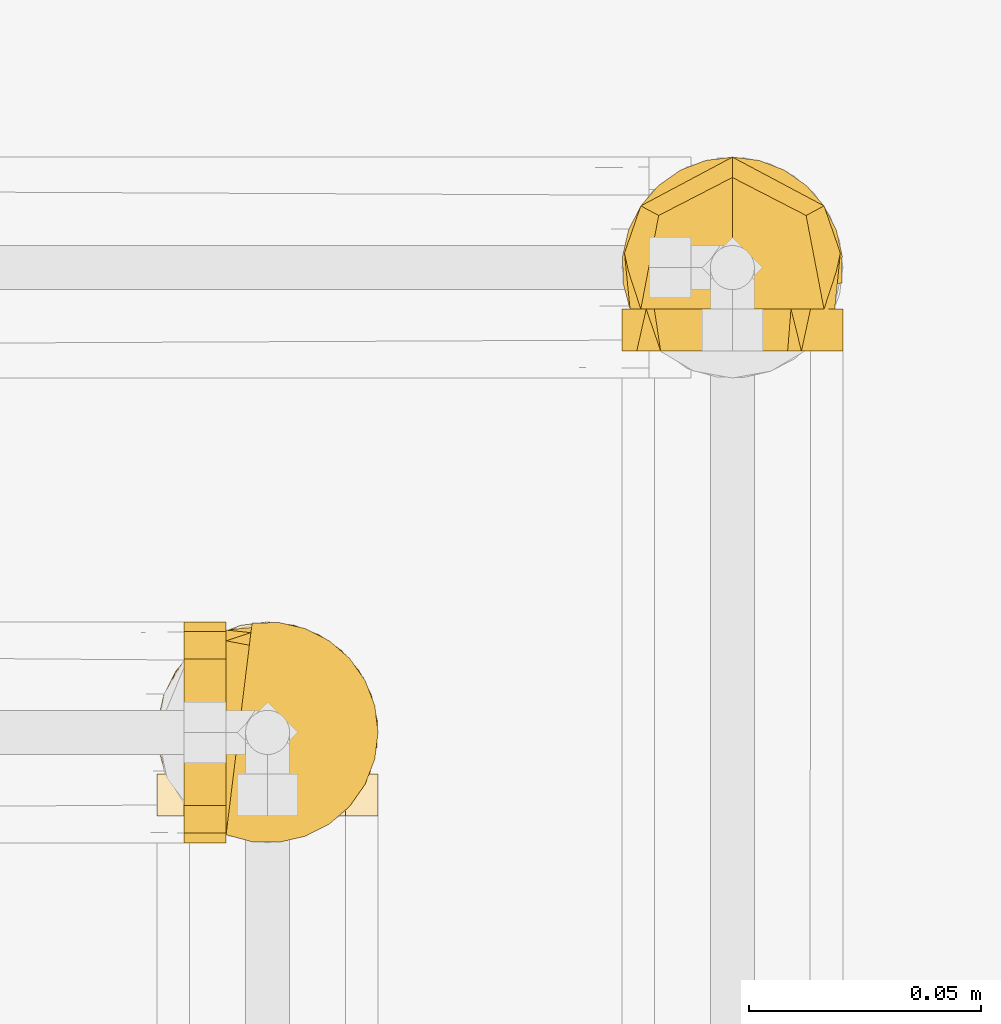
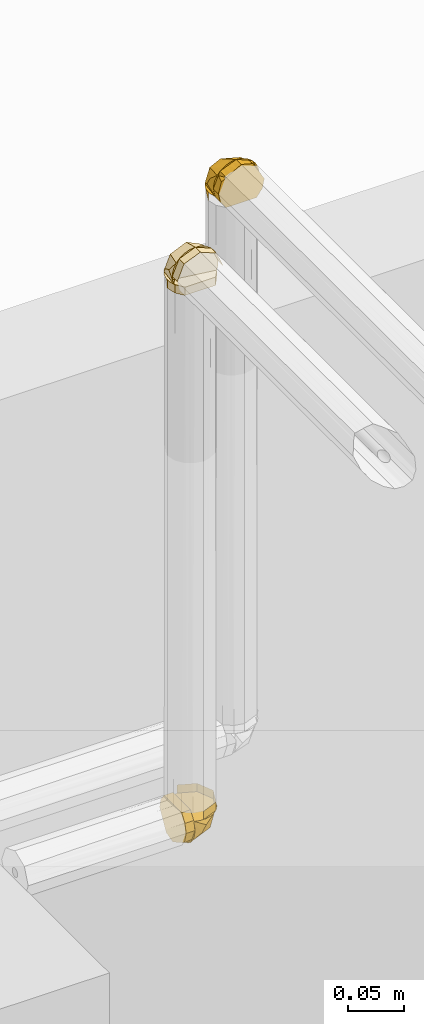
# One storey, part 313 of 652: 3 coverings.
"""IFC2X3 building model written with IfcOpenShell, lengths in millimetres."""

from ifc_helpers import new_model, entity, si_unit, converted_unit, direction, frame, origin, place, context, subcontext, project, spatial, face_set, surface_model, material, type_object, element, save


model = new_model("IFC2X3")

# Units and contexts
model_context = context("Model", 3, precision=0.01, world=frame((0.0, 0.0, 308426.39999999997)), true_north=direction((6.123233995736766e-17, 1.0)))
plan_context = context("Plan", 3, precision=0.01, world=frame((0.0, 0.0, 308426.39999999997)), true_north=direction((6.123233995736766e-17, 1.0)))
body_context = subcontext(model_context, "Body", "Model", "MODEL_VIEW")
ifc_project = project(units=[si_unit("LENGTHUNIT", "METRE", prefix="MILLI"), si_unit("AREAUNIT", "SQUARE_METRE"), si_unit("VOLUMEUNIT", "CUBIC_METRE"), converted_unit("PLANEANGLEUNIT", "DEGREE", entity("IfcPlaneAngleMeasure", 0.017453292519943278), si_unit("PLANEANGLEUNIT", "RADIAN"), dimensions=[0, 0, 0, 0, 0, 0, 0])], contexts=[model_context, plan_context])

# Site, building, storey
site_placement = place(None, origin())
site = spatial("IfcSite", under=ifc_project, at=site_placement, Name="Default", CompositionType="ELEMENT")
building_placement = place(site_placement, origin())
building = spatial("IfcBuilding", under=site, at=building_placement, CompositionType="ELEMENT")
storey_placement = place(building_placement, frame((0.0, 0.0, 1730.6999999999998)))
storey = spatial("IfcBuildingStorey", under=building, at=storey_placement, Name="EG_Produktion_FFB", CompositionType="ELEMENT", Elevation=1730.6999999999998)

# Coverings
ifc_material = material(Name="Dämmung - Armaflex-Schlauch")
covering_type = type_object("IfcCoveringType", Name="Rohrdämmung außen:Armaflex-Schlauch", PredefinedType="INSULATION")
covering_1_placement = place(storey_placement, frame((24840.430805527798, 63025.89816965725, 3325.3577722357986)))
element("IfcCovering", 1, at=covering_1_placement, inside=storey, type_object=covering_type, material=ifc_material, Name="Rohrdämmung außen:Armaflex-Schlauch", ObjectType="Rohrdämmung außen:Armaflex-Schlauch", PredefinedType="INSULATION", context=body_context, shape_type="SurfaceModel", body=[
    surface_model("IfcFaceBasedSurfaceModel", [(3.3372686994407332, 10.458420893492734, -34.28827223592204), (1.8303409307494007, 16.054796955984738, -34.28827223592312), (1.7230119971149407, 21.84951324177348, -34.288272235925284), (3.0216666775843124, 27.497853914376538, -34.288272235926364), (5.649050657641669, 32.66381072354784, -34.28827223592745), (9.448866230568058, 37.04007144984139, -34.28827223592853), (14.19507012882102, 40.36630128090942, -34.28827223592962), (19.605320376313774, 42.44462959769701, -34.2882722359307), (25.357772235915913, 43.151420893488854, -34.2882722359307), (31.11022409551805, 42.44462959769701, -34.2882722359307), (36.520474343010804, 40.36630128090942, -34.28827223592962), (41.26667824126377, 37.04007144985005, -34.28827223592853), (45.06649381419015, 32.66381072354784, -34.28827223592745), (47.69387779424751, 27.497853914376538, -34.288272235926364), (48.99253247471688, 21.84951324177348, -34.288272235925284), (48.885203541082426, 16.054796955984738, -34.28827223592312), (47.37827577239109, 10.458420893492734, -34.28827223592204), (48.885203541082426, 10.458420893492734, -28.691896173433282), (48.99253247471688, 10.458420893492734, -22.897179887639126), (47.69387779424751, 10.458420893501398, -17.248839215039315), (45.06649381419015, 10.458420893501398, -12.082882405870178), (41.26667824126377, 10.458420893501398, -7.706621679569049), (36.520474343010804, 10.458420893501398, -4.380391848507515), (31.11022409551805, 10.458420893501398, -2.3020635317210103), (25.357772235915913, 10.458420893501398, -1.5952722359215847), (19.605320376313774, 10.458420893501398, -2.3020635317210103), (14.19507012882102, 10.458420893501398, -4.380391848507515), (9.448866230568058, 10.458420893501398, -7.706621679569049), (5.649050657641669, 10.458420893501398, -12.082882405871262), (3.0216666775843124, 10.458420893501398, -17.248839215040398), (1.7230119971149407, 10.458420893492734, -22.897179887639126), (1.8303409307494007, 10.458420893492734, -28.691896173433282), (2.999290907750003, 18.579247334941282, -19.381484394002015), (9.498894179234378, 30.597118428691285, -16.86710298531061), (4.480595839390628, 10.458812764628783, -23.31438386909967), (15.617125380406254, 37.96876149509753, -34.28813264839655), (25.35839124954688, 38.77336354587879, -17.942037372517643), (15.503178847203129, 10.458812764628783, -6.839226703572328), (25.35839124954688, 23.527782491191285, -9.140249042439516), (2.138878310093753, 22.523192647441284, -27.208332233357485), (4.492223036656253, 21.560460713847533, -34.28813264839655), (47.71749159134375, 18.579247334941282, -19.381484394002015), (48.57557874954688, 22.523192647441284, -27.208332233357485), (41.21556288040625, 30.597118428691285, -16.86710298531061), (35.09733167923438, 37.96876149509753, -34.28813264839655), (46.23618665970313, 10.458812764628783, -23.31438386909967), (35.09733167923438, 10.458812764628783, -6.778183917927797), (25.35839124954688, 24.616088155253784, -9.768699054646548), (46.22223402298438, 21.560460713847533, -34.28813264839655), (1.594725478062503, 19.388500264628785, -43.30793092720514), (1.594725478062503, 19.388500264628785, -34.28813264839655), (8.554765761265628, 36.19212575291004, -34.28813264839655), (8.554765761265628, 36.19212575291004, -43.30793092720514), (25.35839124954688, 43.149840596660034, -34.28813264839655), (25.35839124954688, 43.149840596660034, -43.30793092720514), (42.159691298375, 36.19212575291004, -34.28813264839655), (42.159691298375, 36.19212575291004, -43.30793092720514), (49.11973158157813, 19.388500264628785, -34.28813264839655), (49.11973158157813, 19.388500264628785, -43.30793092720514), (46.1499597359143, 1.4386708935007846, -20.213040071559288), (43.179647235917, 1.4386708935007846, -15.068307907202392), (40.20933473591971, 1.4386708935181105, -9.923575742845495), (37.239022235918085, 1.4386708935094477, -4.7788435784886), (31.298397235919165, 1.4386708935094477, -3.187057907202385), (25.357772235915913, 1.4386708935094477, -1.5952722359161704), (20.21304007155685, 1.4386708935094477, -4.565584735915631), (15.06830790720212, 1.4386708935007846, -7.535897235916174), (9.92357574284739, 1.4386708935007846, -10.506209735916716), (4.778843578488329, 1.4386708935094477, -13.476522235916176), (3.1870579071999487, 1.4386708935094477, -19.41714723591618), (1.5952722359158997, 1.4386708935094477, -25.357772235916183), (2.6431209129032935, 1.4386708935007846, -30.23645211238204), (3.690969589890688, 1.4386708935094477, -35.11513198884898), (6.649688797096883, 1.4386708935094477, -39.13327644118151), (9.608408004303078, 1.4386708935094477, -43.15142089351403), (41.10713646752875, 1.4386708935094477, -43.15142089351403), (44.06585567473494, 1.4386708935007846, -39.13327644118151), (47.024574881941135, 1.4386708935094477, -35.11513198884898), (48.07242355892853, 1.4386708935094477, -30.23645211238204), (49.12027223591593, 1.4386708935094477, -25.357772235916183), (42.16039712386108, 10.458420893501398, -8.55514734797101), (43.90036590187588, 10.458420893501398, -12.755803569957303), (45.64033467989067, 10.458420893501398, -16.956459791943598), (47.38030345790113, 10.458420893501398, -21.15711601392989), (49.12027223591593, 10.458420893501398, -25.357772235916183), (48.07242355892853, 10.458420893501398, -30.23645211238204), (47.02457488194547, 10.458420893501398, -35.11513198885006), (43.98587506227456, 10.458420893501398, -39.241895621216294), (41.10713646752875, 10.458420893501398, -43.15142089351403), (9.60840800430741, 10.458420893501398, -43.15142089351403), (6.649688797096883, 10.458420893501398, -39.13327644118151), (3.690969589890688, 10.458420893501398, -35.11513198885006), (2.6147952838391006, 10.458420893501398, -30.104570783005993), (1.5952722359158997, 10.458420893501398, -25.357772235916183), (3.3352410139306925, 10.458420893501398, -21.15711601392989), (5.0752097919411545, 10.458420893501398, -16.956459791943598), (6.815178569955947, 10.458420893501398, -12.755803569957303), (8.55514734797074, 10.458420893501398, -8.55514734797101), (12.755803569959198, 10.458420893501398, -6.8151785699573), (16.956459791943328, 10.458420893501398, -5.075209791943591), (21.157116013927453, 10.458420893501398, -3.3352410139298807), (25.357772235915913, 10.458420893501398, -1.5952722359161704), (29.55842845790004, 10.458420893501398, -3.3352410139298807), (33.759084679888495, 10.458420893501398, -5.075209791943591), (37.95974090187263, 10.458420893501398, -6.8151785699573)], [face_set([[[0, 1, 2, 3, 4, 5, 6, 7, 8, 9, 10, 11, 12, 13, 14, 15]], [[16, 17, 18, 19, 20, 21, 22, 23, 24, 25, 26, 27, 28, 29, 30, 31]], [[32, 28, 33]], [[32, 34, 28]], [[33, 35, 4]], [[35, 33, 36]], [[36, 8, 35]], [[33, 37, 38]], [[39, 4, 40, 0]], [[32, 33, 39]], [[34, 32, 0]], [[4, 39, 33]], [[38, 36, 33]], [[0, 32, 39]], [[33, 28, 37]], [[37, 24, 38]], [[41, 16, 42]], [[43, 44, 36]], [[20, 45, 41]], [[46, 43, 47]], [[44, 8, 36]], [[12, 43, 42]], [[44, 43, 12]], [[42, 16, 48, 12]], [[20, 43, 46]], [[16, 41, 45]], [[43, 41, 42]], [[43, 36, 47]], [[47, 24, 46]], [[20, 41, 43]]]), face_set([[[49, 50, 51, 52]], [[53, 54, 52, 51]], [[54, 53, 55, 56]], [[57, 58, 56, 55]]]), face_set([[[59, 60, 61, 62, 63, 64, 65, 66, 67, 68, 69, 70, 71, 72, 73, 74, 75, 76, 77, 78, 79]], [[80, 81, 82, 83, 84, 85, 86, 87, 88, 89, 90, 91, 92, 93, 94, 95, 96, 97, 98, 99, 100, 101, 102, 103, 104]], [[75, 74, 89, 88]], [[71, 70, 93, 92, 91, 72]], [[73, 72, 91, 90, 89, 74]], [[96, 67, 97]], [[64, 100, 65]], [[100, 99, 65]], [[69, 95, 94]], [[94, 93, 70]], [[67, 96, 68]], [[66, 99, 98]], [[64, 101, 100]], [[99, 66, 65]], [[70, 69, 94]], [[98, 97, 67]], [[96, 95, 68]], [[69, 68, 95]], [[66, 98, 67]], [[104, 61, 80]], [[79, 83, 59]], [[83, 82, 59]], [[63, 103, 102]], [[102, 101, 64]], [[61, 104, 62]], [[60, 82, 81]], [[79, 84, 83]], [[82, 60, 59]], [[64, 63, 102]], [[81, 80, 61]], [[104, 103, 62]], [[63, 62, 103]], [[60, 81, 61]], [[76, 75, 88, 87, 86, 77]], [[78, 77, 86, 85, 84, 79]]])]),
])
covering_2_placement = place(storey_placement, frame((24740.430805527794, 62925.89816965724, 3325.3577722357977)))
element("IfcCovering", 2, at=covering_2_placement, inside=storey, type_object=covering_type, material=ifc_material, Name="Rohrdämmung außen:Armaflex-Schlauch", ObjectType="Rohrdämmung außen:Armaflex-Schlauch", PredefinedType="INSULATION", context=body_context, shape_type="SurfaceModel", body=[
    surface_model("IfcFaceBasedSurfaceModel", [(47.37827577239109, 10.458420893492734, -34.288272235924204), (48.885203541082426, 10.458420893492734, -28.691896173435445), (48.99253247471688, 10.458420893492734, -22.89717988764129), (47.69387779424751, 10.458420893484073, -17.248839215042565), (45.06649381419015, 10.458420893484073, -12.082882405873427), (41.26667824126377, 10.458420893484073, -7.706621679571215), (36.520474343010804, 10.458420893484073, -4.380391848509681), (31.11022409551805, 10.458420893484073, -2.3020635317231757), (25.357772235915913, 10.458420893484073, -1.5952722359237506), (19.605320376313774, 10.458420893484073, -2.3020635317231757), (14.19507012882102, 10.458420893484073, -4.380391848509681), (9.448866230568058, 10.458420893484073, -7.706621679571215), (5.649050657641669, 10.458420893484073, -12.082882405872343), (3.0216666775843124, 10.458420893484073, -17.24883921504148), (1.7230119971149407, 10.458420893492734, -22.89717988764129), (1.8303409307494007, 10.458420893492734, -28.691896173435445), (3.3372686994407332, 10.458420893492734, -34.288272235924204), (1.8303409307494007, 16.054796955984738, -34.28827223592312), (1.7230119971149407, 21.84951324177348, -34.28827223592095), (3.0216666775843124, 27.497853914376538, -34.28827223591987), (5.649050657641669, 32.66381072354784, -34.28827223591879), (9.448866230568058, 37.04007144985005, -34.2882722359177), (14.19507012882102, 40.36630128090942, -34.28827223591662), (19.605320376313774, 42.44462959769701, -34.288272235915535), (25.357772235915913, 43.151420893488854, -34.288272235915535), (31.11022409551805, 42.44462959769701, -34.288272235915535), (36.520474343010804, 40.36630128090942, -34.28827223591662), (41.26667824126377, 37.04007144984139, -34.2882722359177), (45.06649381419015, 32.66381072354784, -34.28827223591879), (47.69387779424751, 27.497853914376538, -34.28827223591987), (48.99253247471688, 21.84951324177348, -34.28827223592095), (48.885203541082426, 16.054796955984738, -34.28827223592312), (47.71661878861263, 25.366332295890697, -26.165953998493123), (41.21701551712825, 27.877806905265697, -14.151571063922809), (46.235313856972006, 21.4316887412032, -34.28813264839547), (35.09878431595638, 10.460265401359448, -6.7781839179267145), (25.357518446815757, 26.80345387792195, -5.975325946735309), (35.212730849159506, 37.90975270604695, -34.28813264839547), (25.357518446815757, 35.6075676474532, -21.220325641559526), (48.574705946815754, 17.538903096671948, -22.223171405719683), (46.22136122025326, 10.460265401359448, -23.18532197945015), (2.9984181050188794, 25.366332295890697, -26.165953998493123), (2.1403309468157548, 17.538903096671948, -22.223171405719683), (9.498021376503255, 27.877806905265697, -14.151571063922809), (15.618578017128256, 10.460265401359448, -6.7781839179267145), (4.479723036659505, 21.4316887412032, -34.28813264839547), (15.618578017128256, 37.9702141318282, -34.28813264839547), (25.357518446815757, 34.97969899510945, -20.132019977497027), (4.493675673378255, 10.460265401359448, -23.18532197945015), (49.12118421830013, 1.4375603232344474, -25.357863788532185), (49.12118421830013, 10.460265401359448, -25.357863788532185), (42.16114393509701, 10.460265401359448, -8.555401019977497), (42.16114393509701, 1.4375603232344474, -8.555401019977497), (25.357518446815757, 10.460265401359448, -1.5953607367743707), (25.357518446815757, 1.4375603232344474, -1.5953607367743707), (8.55621839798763, 10.460265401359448, -8.555401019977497), (8.55621839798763, 1.4375603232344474, -8.555401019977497), (1.5961781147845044, 10.460265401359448, -25.357863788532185), (1.5961781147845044, 1.4375603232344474, -25.357863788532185), (4.5655847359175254, 24.5336530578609, -43.30802223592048), (7.53589723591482, 29.67838522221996, -43.308022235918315), (10.506209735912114, 34.82311738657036, -43.30802223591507), (13.47652223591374, 39.96784955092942, -43.3080222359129), (19.417147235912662, 41.55963522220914, -43.3080222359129), (25.357772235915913, 43.151420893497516, -43.3080222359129), (30.502504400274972, 40.181108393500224, -43.30802223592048), (35.6472365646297, 37.210795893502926, -43.308022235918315), (40.791968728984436, 34.24048339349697, -43.308022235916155), (45.93670089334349, 31.270170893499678, -43.3080222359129), (47.528486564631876, 25.329545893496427, -43.3080222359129), (49.12027223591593, 19.388920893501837, -43.3080222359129), (48.07242355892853, 14.51024101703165, -43.308022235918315), (47.024574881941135, 9.631561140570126, -43.3080222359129), (44.06585567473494, 5.613416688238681, -43.3080222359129), (41.10713646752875, 1.5952722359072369, -43.3080222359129), (9.608408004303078, 1.5952722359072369, -43.3080222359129), (6.649688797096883, 5.613416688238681, -43.308022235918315), (3.690969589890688, 9.631561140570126, -43.3080222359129), (2.6431209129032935, 14.51024101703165, -43.3080222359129), (1.5952722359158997, 19.388920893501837, -43.3080222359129), (8.55514734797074, 36.19154578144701, -34.28827223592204), (6.8151785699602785, 31.990889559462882, -34.28827223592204), (5.0752097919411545, 27.79023333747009, -34.28827223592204), (3.3352410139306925, 23.589577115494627, -34.28827223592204), (1.5952722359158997, 19.388920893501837, -34.28827223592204), (2.6431209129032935, 14.51024101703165, -34.28827223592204), (3.690969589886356, 9.631561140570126, -34.28827223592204), (6.729669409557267, 5.504797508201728, -34.28827223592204), (9.608408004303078, 1.5952722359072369, -34.28827223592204), (41.10713646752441, 1.5952722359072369, -34.28827223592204), (44.06585567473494, 5.613416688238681, -34.28827223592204), (47.024574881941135, 9.631561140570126, -34.28827223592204), (48.100749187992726, 14.642122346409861, -34.28827223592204), (49.12027223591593, 19.388920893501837, -34.28827223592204), (47.38030345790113, 23.589577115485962, -34.28827223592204), (45.64033467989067, 27.79023333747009, -34.28827223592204), (43.900365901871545, 31.990889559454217, -34.28827223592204), (42.16039712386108, 36.19154578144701, -34.28827223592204), (37.959740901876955, 37.93151455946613, -34.28827223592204), (33.759084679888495, 39.671483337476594, -34.28827223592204), (29.55842845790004, 41.41145211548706, -34.28827223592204), (25.357772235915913, 43.151420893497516, -34.28827223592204), (21.157116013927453, 41.41145211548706, -34.28827223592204), (16.956459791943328, 39.671483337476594, -34.28827223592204), (12.755803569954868, 37.93151455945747, -34.28827223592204)], [face_set([[[0, 1, 2, 3, 4, 5, 6, 7, 8, 9, 10, 11, 12, 13, 14, 15]], [[16, 17, 18, 19, 20, 21, 22, 23, 24, 25, 26, 27, 28, 29, 30, 31]], [[32, 28, 33]], [[32, 34, 28]], [[33, 35, 4]], [[35, 33, 36]], [[36, 8, 35]], [[33, 37, 38]], [[39, 4, 40]], [[32, 33, 39]], [[34, 32, 0]], [[4, 39, 33]], [[38, 36, 33]], [[0, 32, 39]], [[33, 28, 37]], [[37, 24, 38]], [[0, 39, 40]], [[41, 16, 42]], [[43, 44, 36]], [[20, 45, 41]], [[46, 43, 47]], [[44, 8, 36]], [[12, 43, 42]], [[44, 43, 12]], [[42, 16, 48]], [[20, 43, 46]], [[16, 41, 45]], [[43, 41, 42]], [[43, 36, 47]], [[47, 24, 46]], [[20, 41, 43]], [[48, 12, 42]]]), face_set([[[49, 50, 51, 52]], [[53, 54, 52, 51]], [[54, 53, 55, 56]], [[57, 58, 56, 55]]]), face_set([[[59, 60, 61, 62, 63, 64, 65, 66, 67, 68, 69, 70, 71, 72, 73, 74, 75, 76, 77, 78, 79]], [[80, 81, 82, 83, 84, 85, 86, 87, 88, 89, 90, 91, 92, 93, 94, 95, 96, 97, 98, 99, 100, 101, 102, 103, 104]], [[75, 74, 89, 88]], [[71, 70, 93, 92, 91, 72]], [[73, 72, 91, 90, 89, 74]], [[96, 67, 97]], [[64, 100, 65]], [[100, 99, 65]], [[69, 95, 94]], [[94, 93, 70]], [[67, 96, 68]], [[66, 99, 98]], [[64, 101, 100]], [[99, 66, 65]], [[70, 69, 94]], [[98, 97, 67]], [[96, 95, 68]], [[69, 68, 95]], [[66, 98, 67]], [[104, 61, 80]], [[79, 83, 59]], [[83, 82, 59]], [[63, 103, 102]], [[102, 101, 64]], [[61, 104, 62]], [[60, 82, 81]], [[79, 84, 83]], [[82, 60, 59]], [[64, 63, 102]], [[81, 80, 61]], [[104, 103, 62]], [[63, 62, 103]], [[60, 81, 61]], [[76, 75, 88, 87, 86, 77]], [[78, 77, 86, 85, 84, 79]]])]),
])
covering_3_placement = place(storey_placement, frame((24746.3996568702, 62919.92931831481, 2674.6422277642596)))
element("IfcCovering", 3, at=covering_3_placement, inside=storey, type_object=covering_type, material=ifc_material, Name="Rohrdämmung außen:Armaflex-Schlauch", ObjectType="Rohrdämmung außen:Armaflex-Schlauch", PredefinedType="INSULATION", context=body_context, shape_type="SurfaceModel", body=[
    surface_model("IfcFaceBasedSurfaceModel", [(10.45842089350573, 3.3372686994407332, 34.28827223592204), (16.054796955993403, 1.8303409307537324, 34.28827223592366), (21.849513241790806, 1.7230119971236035, 34.288272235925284), (27.497853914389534, 3.0216666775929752, 34.288272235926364), (32.6638107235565, 5.649050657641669, 34.28827223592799), (37.040071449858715, 9.44886623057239, 34.28827223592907), (40.366301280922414, 14.195070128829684, 34.28827223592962), (42.44462959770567, 19.605320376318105, 34.2882722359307), (43.15142089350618, 25.357772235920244, 34.2882722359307), (42.44462959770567, 31.110224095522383, 34.2882722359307), (40.366301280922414, 36.520474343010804, 34.28827223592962), (37.040071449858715, 41.266678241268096, 34.28827223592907), (32.6638107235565, 45.066493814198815, 34.28827223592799), (27.497853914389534, 47.69387779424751, 34.288272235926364), (21.849513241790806, 48.99253247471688, 34.288272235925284), (16.054796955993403, 48.88520354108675, 34.28827223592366), (10.45842089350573, 47.37827577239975, 34.28827223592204), (10.45842089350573, 48.88520354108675, 28.691896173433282), (10.45842089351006, 48.99253247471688, 22.897179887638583), (10.45842089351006, 47.69387779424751, 17.248839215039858), (10.45842089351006, 45.066493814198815, 12.08288240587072), (10.458420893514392, 41.266678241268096, 7.706621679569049), (10.458420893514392, 36.520474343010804, 4.3803918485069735), (10.458420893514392, 31.110224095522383, 2.3020635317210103), (10.458420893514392, 25.357772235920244, 1.5952722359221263), (10.458420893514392, 19.605320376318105, 2.3020635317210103), (10.458420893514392, 14.195070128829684, 4.3803918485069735), (10.458420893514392, 9.44886623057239, 7.706621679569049), (10.45842089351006, 5.649050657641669, 12.08288240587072), (10.45842089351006, 3.0216666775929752, 17.248839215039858), (10.45842089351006, 1.7230119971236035, 22.897179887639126), (10.45842089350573, 1.8303409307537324, 28.691896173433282), (18.579414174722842, 2.997378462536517, 19.38129671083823), (30.594959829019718, 9.499307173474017, 16.867205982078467), (10.458979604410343, 4.481008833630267, 23.31448686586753), (37.968928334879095, 15.619863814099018, 34.288235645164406), (38.77120494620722, 25.35880424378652, 17.941849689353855), (10.458979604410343, 15.503591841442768, 6.839039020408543), (23.525623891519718, 25.35880424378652, 9.14006135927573), (22.523359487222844, 2.1416167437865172, 27.2081445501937), (21.560627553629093, 4.4949614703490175, 34.288235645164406), (18.579414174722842, 47.71557914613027, 19.38129671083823), (22.523359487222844, 48.57599174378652, 27.2081445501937), (30.594959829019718, 41.218301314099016, 16.867205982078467), (37.968928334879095, 35.09774467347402, 34.288235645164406), (10.458979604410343, 46.23659965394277, 23.31448686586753), (10.458979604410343, 35.09774467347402, 6.778286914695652), (24.613929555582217, 25.35880424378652, 9.768511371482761), (21.560627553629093, 46.22264701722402, 34.288235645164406), (19.38866710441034, 1.597463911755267, 43.308033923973), (19.38866710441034, 1.597463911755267, 34.288235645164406), (36.192292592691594, 8.555178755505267, 34.288235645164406), (36.192292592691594, 8.555178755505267, 43.308033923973), (43.15233287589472, 25.35880424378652, 34.288235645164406), (43.15233287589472, 25.35880424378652, 43.308033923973), (36.192292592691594, 42.16242973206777, 34.288235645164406), (36.192292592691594, 42.16242973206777, 43.308033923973), (19.38866710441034, 49.12014457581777, 34.288235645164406), (19.38866710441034, 49.12014457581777, 43.308033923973), (1.4386708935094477, 46.14995973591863, 20.213040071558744), (1.438670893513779, 43.179647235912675, 15.06830790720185), (1.4386708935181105, 40.20933473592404, 9.923575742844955), (1.4386708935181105, 37.239022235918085, 4.7788435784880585), (1.4386708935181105, 31.298397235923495, 3.1870579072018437), (1.4386708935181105, 25.357772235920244, 1.595272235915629), (1.4386708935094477, 20.21304007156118, 4.565584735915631), (1.438670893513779, 15.068307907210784, 7.535897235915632), (1.4386708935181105, 9.923575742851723, 10.506209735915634), (1.4386708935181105, 4.778843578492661, 13.476522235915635), (1.4386708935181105, 3.1870579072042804, 19.41714723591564), (1.4386708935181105, 1.5952722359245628, 25.35777223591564), (1.438670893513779, 2.643120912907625, 30.23645211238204), (1.4386708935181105, 3.690969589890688, 35.11513198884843), (1.4386708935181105, 6.649688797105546, 39.13327644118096), (1.4386708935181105, 9.608408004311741, 43.15142089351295), (1.4386708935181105, 41.10713646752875, 43.15142089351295), (1.438670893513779, 44.06585567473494, 39.13327644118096), (1.4386708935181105, 47.024574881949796, 35.11513198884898), (1.4386708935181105, 48.07242355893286, 30.23645211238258), (1.4386708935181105, 49.12027223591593, 25.35777223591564), (10.45842089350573, 42.160397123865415, 8.55514734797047), (10.45842089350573, 43.90036590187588, 12.755803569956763), (10.45842089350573, 45.64033467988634, 16.956459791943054), (10.45842089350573, 47.38030345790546, 21.15711601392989), (10.45842089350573, 49.12027223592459, 25.35777223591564), (10.45842089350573, 48.07242355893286, 30.23645211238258), (10.45842089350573, 47.024574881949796, 35.11513198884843), (10.45842089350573, 43.985875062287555, 39.241895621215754), (10.45842089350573, 41.10713646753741, 43.15142089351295), (10.45842089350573, 9.608408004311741, 43.15142089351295), (10.45842089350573, 6.649688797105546, 39.13327644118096), (10.45842089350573, 3.6909695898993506, 35.11513198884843), (10.458420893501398, 2.6147952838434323, 30.10457078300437), (10.45842089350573, 1.5952722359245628, 25.35777223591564), (10.45842089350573, 3.335241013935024, 21.157116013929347), (10.45842089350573, 5.075209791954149, 16.956459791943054), (10.45842089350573, 6.81517856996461, 12.755803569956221), (10.45842089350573, 8.55514734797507, 8.555147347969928), (10.45842089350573, 12.755803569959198, 6.8151785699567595), (10.45842089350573, 16.956459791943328, 5.075209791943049), (10.45842089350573, 21.157116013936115, 3.335241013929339), (10.45842089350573, 25.357772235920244, 1.595272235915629), (10.45842089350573, 29.558428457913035, 3.335241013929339), (10.45842089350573, 33.759084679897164, 5.075209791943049), (10.45842089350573, 37.95974090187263, 6.8151785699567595)], [face_set([[[0, 1, 2, 3, 4, 5, 6, 7, 8, 9, 10, 11, 12, 13, 14, 15]], [[16, 17, 18, 19, 20, 21, 22, 23, 24, 25, 26, 27, 28, 29, 30, 31]], [[32, 28, 33]], [[32, 34, 28]], [[33, 35, 4]], [[35, 33, 36]], [[36, 8, 35]], [[33, 37, 38]], [[39, 4, 40]], [[32, 33, 39]], [[34, 32, 0]], [[4, 39, 33]], [[38, 36, 33]], [[0, 32, 39]], [[33, 28, 37]], [[37, 24, 38]], [[0, 39, 40]], [[41, 16, 42]], [[43, 44, 36]], [[20, 45, 41]], [[46, 43, 47]], [[44, 8, 36]], [[12, 43, 42]], [[44, 43, 12]], [[42, 16, 48]], [[20, 43, 46]], [[16, 41, 45]], [[43, 41, 42]], [[43, 36, 47]], [[47, 24, 46]], [[20, 41, 43]], [[48, 12, 42]]]), face_set([[[49, 50, 51, 52]], [[53, 54, 52, 51]], [[54, 53, 55, 56]], [[57, 58, 56, 55]]]), face_set([[[59, 60, 61, 62, 63, 64, 65, 66, 67, 68, 69, 70, 71, 72, 73, 74, 75, 76, 77, 78, 79]], [[80, 81, 82, 83, 84, 85, 86, 87, 88, 89, 90, 91, 92, 93, 94, 95, 96, 97, 98, 99, 100, 101, 102, 103, 104]], [[75, 74, 89, 88]], [[71, 70, 93, 92, 91, 72]], [[73, 72, 91, 90, 89, 74]], [[96, 67, 97]], [[64, 100, 65]], [[100, 99, 65]], [[69, 95, 94]], [[94, 93, 70]], [[67, 96, 68]], [[66, 99, 98]], [[64, 101, 100]], [[99, 66, 65]], [[70, 69, 94]], [[98, 97, 67]], [[96, 95, 68]], [[69, 68, 95]], [[66, 98, 67]], [[104, 61, 80]], [[79, 83, 59]], [[83, 82, 59]], [[63, 103, 102]], [[102, 101, 64]], [[61, 104, 62]], [[60, 82, 81]], [[79, 84, 83]], [[82, 60, 59]], [[64, 63, 102]], [[81, 80, 61]], [[104, 103, 62]], [[63, 62, 103]], [[60, 81, 61]], [[76, 75, 88, 87, 86, 77]], [[78, 77, 86, 85, 84, 79]]])]),
])

save(model, "model.ifc")
